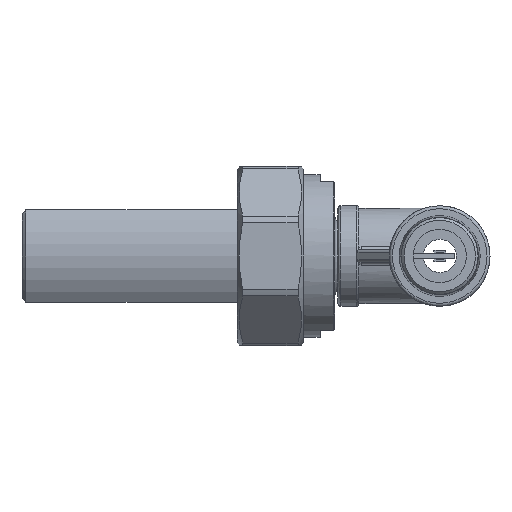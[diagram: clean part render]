
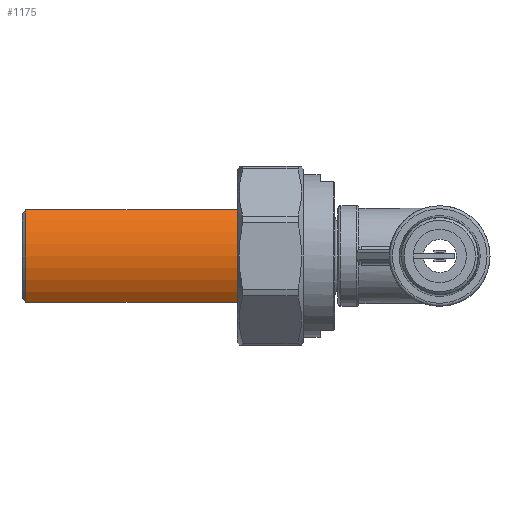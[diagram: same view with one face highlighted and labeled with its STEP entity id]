
A CAD part, left-side view. The second image highlights one B-rep face of the part: STEP entity #1175.
In plain terms, the highlighted cylindrical face has radius 12.5 mm (diameter 25 mm), a partial arc.
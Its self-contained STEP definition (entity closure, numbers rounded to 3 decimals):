
#379=LINE('',#8821,#600);
#391=LINE('',#9098,#612);
#600=VECTOR('',#4905,1.);
#612=VECTOR('',#4961,1.);
#769=FACE_OUTER_BOUND('',#1681,.T.);
#959=CYLINDRICAL_SURFACE('',#4051,12.5);
#1175=ADVANCED_FACE('',(#769),#959,.T.);
#1681=EDGE_LOOP('',(#2686,#2687,#2688,#2689));
#2686=ORIENTED_EDGE('',*,*,#3530,.T.);
#2687=ORIENTED_EDGE('',*,*,#3556,.F.);
#2688=ORIENTED_EDGE('',*,*,#3508,.F.);
#2689=ORIENTED_EDGE('',*,*,#3512,.F.);
#3019=VERTEX_POINT('',#8811);
#3020=VERTEX_POINT('',#8813);
#3023=VERTEX_POINT('',#8820);
#3032=VERTEX_POINT('',#8867);
#3508=EDGE_CURVE('',#3019,#3020,#3685,.T.);
#3512=EDGE_CURVE('',#3023,#3019,#379,.T.);
#3530=EDGE_CURVE('',#3023,#3032,#3692,.T.);
#3556=EDGE_CURVE('',#3020,#3032,#391,.T.);
#3685=CIRCLE('',#4025,12.5);
#3692=CIRCLE('',#4039,12.5);
#4025=AXIS2_PLACEMENT_3D('',#8812,#4897,#4898);
#4039=AXIS2_PLACEMENT_3D('',#8873,#4934,#4935);
#4051=AXIS2_PLACEMENT_3D('',#9100,#4964,#4965);
#4897=DIRECTION('',(0.,-1.,0.));
#4898=DIRECTION('',(-0.788,0.,0.616));
#4905=DIRECTION('',(0.,-1.,0.));
#4934=DIRECTION('',(0.,-1.,0.));
#4935=DIRECTION('',(-0.788,0.,0.616));
#4961=DIRECTION('',(0.,1.,0.));
#4964=DIRECTION('',(0.,1.,0.));
#4965=DIRECTION('',(-0.788,0.,-0.616));
#8811=CARTESIAN_POINT('',(-9.847,33.8,7.7));
#8812=CARTESIAN_POINT('',(0.,33.8,0.));
#8813=CARTESIAN_POINT('',(-9.847,33.8,-7.7));
#8820=CARTESIAN_POINT('',(-9.847,69.2,7.7));
#8821=CARTESIAN_POINT('',(-9.847,69.2,7.7));
#8867=CARTESIAN_POINT('',(-9.847,69.2,-7.7));
#8873=CARTESIAN_POINT('',(0.,69.2,0.));
#9098=CARTESIAN_POINT('',(-9.847,33.8,-7.7));
#9100=CARTESIAN_POINT('',(0.,33.8,0.));
